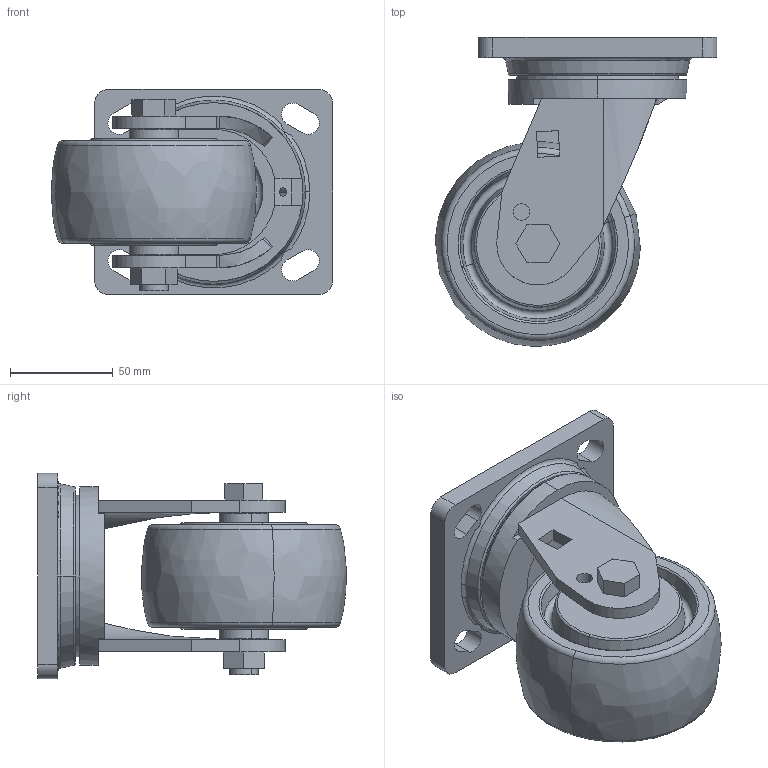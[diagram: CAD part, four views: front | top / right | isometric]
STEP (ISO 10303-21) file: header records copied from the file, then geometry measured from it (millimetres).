
FILE_DESCRIPTION((''),'2;1');
FILE_NAME('78114-784-26__ASM','2020-07-06T',('lenovo'),(''),'PRO/ENGINEER BY PARAMETRIC TECHNOLOGY CORPORATION, 2010280','PRO/ENGINEER BY PARAMETRIC TECHNOLOGY CORPORATION, 2010280','');
FILE_SCHEMA(('CONFIG_CONTROL_DESIGN'));
Length unit declared in the file: millimetre
Products named in the file (10): 780C03D; 780-01B_; 784-26_; 764C11A; PRODUCT_2563; PRODUCT_5895; ____764C11A; 78114-784-26__________ASM; _78114-784-26_____; 78114-784-26__ASM
Assembly tree (9 placements, depth 3):
  78114-784-26__ASM
    78114-784-26__________ASM
      780C03D
      780-01B_
      784-26_
      764C11A
      PRODUCT_2563
      PRODUCT_5895
      ____764C11A
    _78114-784-26_____
Bounding box: 137.09 x 150.42 x 100 mm (x, y, z)
Volume: 604676.3 mm3; surface area: 115148.7 mm2
Topology: 7 solids, 7 shells, 173 faces, 406 edges, 256 vertices
Faces by surface type: plane 81, cylinder 48, torus 26, cone 14, bspline 4
Entity records: 5428 total; most frequent: CARTESIAN_POINT 1042, DIRECTION 968, ORIENTED_EDGE 812, EDGE_CURVE 406, AXIS2_PLACEMENT_3D 377, VERTEX_POINT 256, VECTOR 214, LINE 214
